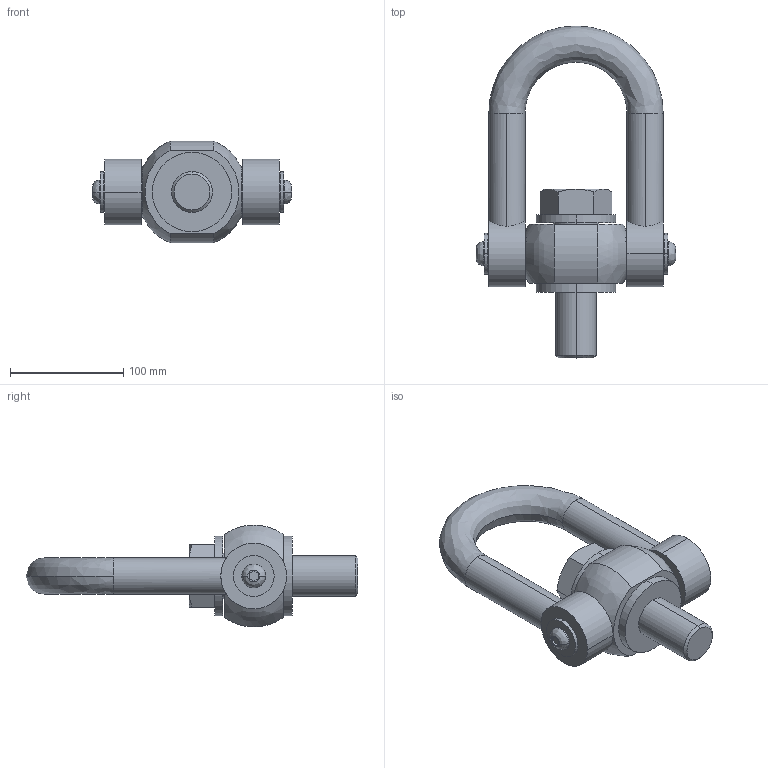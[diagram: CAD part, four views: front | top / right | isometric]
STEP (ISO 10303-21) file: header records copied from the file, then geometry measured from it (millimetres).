
FILE_DESCRIPTION (( 'STEP AP203' ), '1' );
FILE_NAME ('EB-903-36.STEP', '2013-06-25T07:43:51', ( 'SDS' ), ( 'SDS' ), 'SwSTEP 2.0', 'SolidWorks 2002296', '' );
FILE_SCHEMA (( 'CONFIG_CONTROL_DESIGN' ));
Length unit declared in the file: millimetre
Products named in the file (5): EB-903-36; EB-903-364_蹬怮椔; EB-903-363_蹬怮椔; EB-903-361_蹬怮椔; EB-903-362_蹬怮椔
Assembly tree (4 placements, depth 2):
  EB-903-36
    EB-903-364_蹬怮椔
    EB-903-362_蹬怮椔
    EB-903-363_蹬怮椔
    EB-903-361_蹬怮椔
Bounding box: 176 x 293 x 90 mm (x, y, z)
Volume: 1003937.8 mm3; surface area: 153803.9 mm2
Topology: 4 solids, 4 shells, 97 faces, 220 edges, 144 vertices
Faces by surface type: plane 41, cylinder 40, bspline 8, cone 8
Entity records: 3847 total; most frequent: CARTESIAN_POINT 1116, DIRECTION 486, ORIENTED_EDGE 440, EDGE_CURVE 220, AXIS2_PLACEMENT_3D 198, VERTEX_POINT 144, EDGE_LOOP 118, CIRCLE 102
